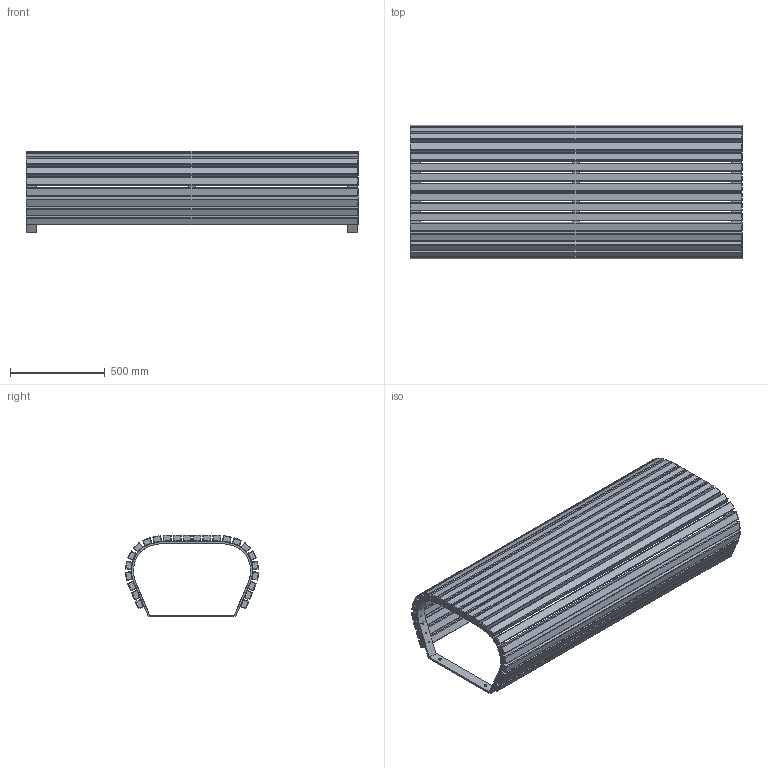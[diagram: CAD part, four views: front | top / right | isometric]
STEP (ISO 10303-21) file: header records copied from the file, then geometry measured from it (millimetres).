
FILE_DESCRIPTION(/* description */ (''),/* implementation_level */ '2;1');
FILE_NAME(/* name */ 'ENV02-E3_UAP_ENVIRON_Bench_3D',/* time_stamp */ '2018-01-23T21:11:06-05:00',/* author */ (''),/* organization */ (''),/* preprocessor_version */ 'ST-DEVELOPER v15',/* originating_system */ '',/* authorisation */ '');
FILE_SCHEMA (('AUTOMOTIVE_DESIGN'));
Length unit declared in the file: millimetre
Products named in the file (1): Document
Bounding box: 1750 x 703.34 x 432.03 mm (x, y, z)
Volume: 58025961.3 mm3; surface area: 6577832.9 mm2
Topology: 29 solids, 29 shells, 824 faces, 1878 edges, 932 vertices
Faces by surface type: bspline 638, plane 186
Entity records: 31102 total; most frequent: CARTESIAN_POINT 20537, ORIENTED_EDGE 3396, EDGE_CURVE 1698, EDGE_LOOP 976, VERTEX_POINT 932, ADVANCED_FACE 824, FACE_OUTER_BOUND 824, B_SPLINE_CURVE_WITH_KNOTS 809
